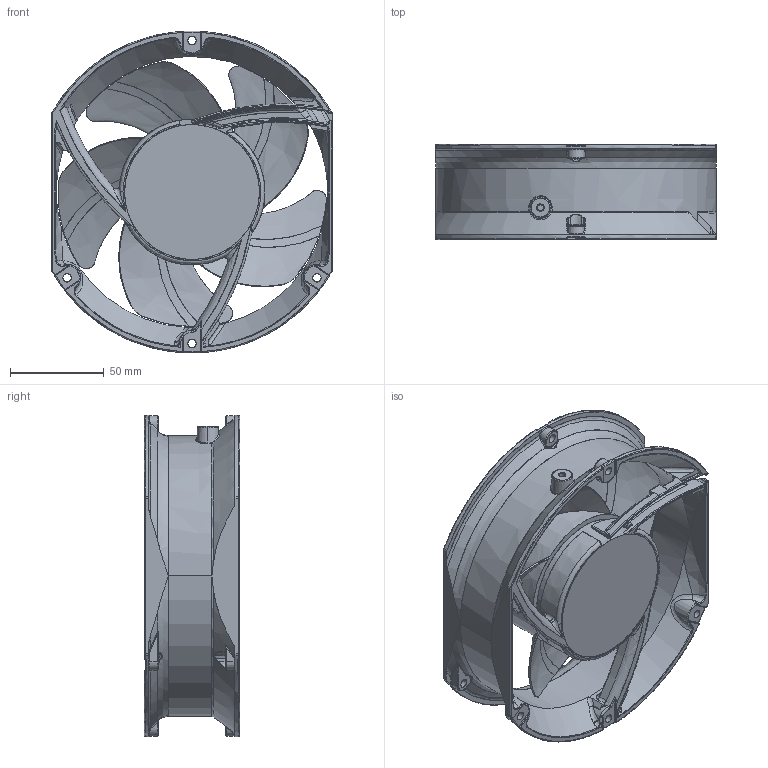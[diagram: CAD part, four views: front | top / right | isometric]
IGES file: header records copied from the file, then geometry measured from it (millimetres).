
Start section: SolidWorks IGES file using analytic representation for surfaces
Bounding box: 150.01 x 51.06 x 172 mm (x, y, z)
Surface area: 112894.2 mm2 (no closed solid volume)
Topology: 0 solids, 0 shells, 956 faces, 9848 edges, 9847 vertices
Faces by surface type: bspline 705, revolution 251
